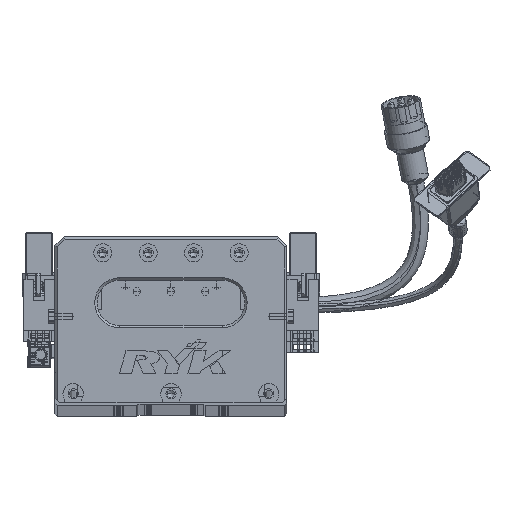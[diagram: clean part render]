
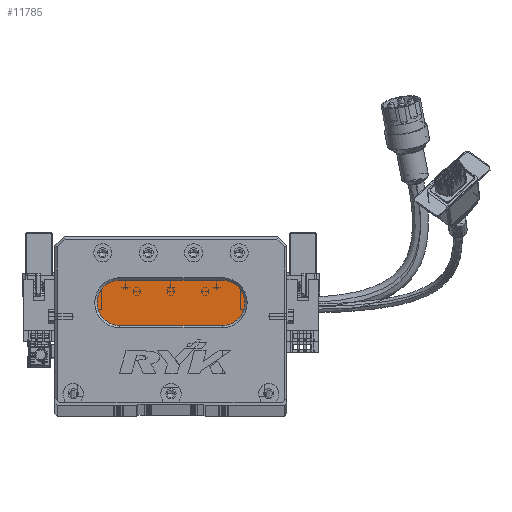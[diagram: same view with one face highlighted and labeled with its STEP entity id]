
A CAD part, top view. The second image highlights one B-rep face of the part: STEP entity #11785.
In plain terms, the highlighted planar face has unit normal (0, 0, 1) as drawn and (0, 0, -1) by its records, which use the part's own axes.
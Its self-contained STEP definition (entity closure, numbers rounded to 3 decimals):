
#1472 = DIRECTION ( 'NONE',  ( -1., 0., 0. ) ) ;
#5469 = DIRECTION ( 'NONE',  ( -1., 0., 0. ) ) ;
#6816 = AXIS2_PLACEMENT_3D ( 'NONE', #46559, #53493, #12463 ) ;
#9738 = DIRECTION ( 'NONE',  ( 1., 0., 0. ) ) ;
#9796 = CARTESIAN_POINT ( 'NONE',  ( 73.5, 44., 13. ) ) ;
#10981 = CIRCLE ( 'NONE', #51789, 10. ) ;
#11600 = CARTESIAN_POINT ( 'NONE',  ( 28.5, 34., 13. ) ) ;
#11785 = ADVANCED_FACE ( 'NONE', ( #70540 ), #29599, .T. ) ;
#12463 = DIRECTION ( 'NONE',  ( -1., 0., 0. ) ) ;
#20121 = EDGE_CURVE ( 'NONE', #39447, #71828, #64007, .T. ) ;
#21683 = AXIS2_PLACEMENT_3D ( 'NONE', #56565, #43353, #1472 ) ;
#22077 = ORIENTED_EDGE ( 'NONE', *, *, #20121, .T. ) ;
#23458 = DIRECTION ( 'NONE',  ( -1., 0., 0. ) ) ;
#25227 = VECTOR ( 'NONE', #9738, 1000. ) ;
#25772 = DIRECTION ( 'NONE',  ( 0., 0., -1. ) ) ;
#29599 = PLANE ( 'NONE',  #21683 ) ;
#30168 = AXIS2_PLACEMENT_3D ( 'NONE', #72865, #25772, #5469 ) ;
#31297 = EDGE_CURVE ( 'NONE', #80783, #39447, #71876, .T. ) ;
#34856 = CARTESIAN_POINT ( 'NONE',  ( 28.5, 54., 13. ) ) ;
#36384 = ORIENTED_EDGE ( 'NONE', *, *, #37349, .T. ) ;
#36512 = CIRCLE ( 'NONE', #30168, 10. ) ;
#36963 = CARTESIAN_POINT ( 'NONE',  ( 73.5, 34., 13. ) ) ;
#37349 = EDGE_CURVE ( 'NONE', #71828, #42043, #36512, .T. ) ;
#39447 = VERTEX_POINT ( 'NONE', #11600 ) ;
#42043 = VERTEX_POINT ( 'NONE', #34856 ) ;
#43353 = DIRECTION ( 'NONE',  ( 0., 0., -1. ) ) ;
#46559 = CARTESIAN_POINT ( 'NONE',  ( 28.5, 44., 13. ) ) ;
#50463 = CARTESIAN_POINT ( 'NONE',  ( 73.5, 54., 13. ) ) ;
#50822 = DIRECTION ( 'NONE',  ( 0., 0., -1. ) ) ;
#51789 = AXIS2_PLACEMENT_3D ( 'NONE', #9796, #50822, #77815 ) ;
#53493 = DIRECTION ( 'NONE',  ( 0., 0., -1. ) ) ;
#54122 = CARTESIAN_POINT ( 'NONE',  ( 73.5, 54., 13. ) ) ;
#56565 = CARTESIAN_POINT ( 'NONE',  ( 73.5, 44., 13. ) ) ;
#59620 = CARTESIAN_POINT ( 'NONE',  ( 18.5, 44., 13. ) ) ;
#64007 = CIRCLE ( 'NONE', #6816, 10. ) ;
#64750 = ORIENTED_EDGE ( 'NONE', *, *, #82307, .T. ) ;
#70230 = ORIENTED_EDGE ( 'NONE', *, *, #31297, .T. ) ;
#70540 = FACE_OUTER_BOUND ( 'NONE', #82781, .T. ) ;
#71828 = VERTEX_POINT ( 'NONE', #59620 ) ;
#71876 = LINE ( 'NONE', #36963, #72891 ) ;
#72865 = CARTESIAN_POINT ( 'NONE',  ( 28.5, 44., 13. ) ) ;
#72891 = VECTOR ( 'NONE', #23458, 1000. ) ;
#73508 = LINE ( 'NONE', #50463, #25227 ) ;
#75992 = VERTEX_POINT ( 'NONE', #54122 ) ;
#76786 = ORIENTED_EDGE ( 'NONE', *, *, #79437, .T. ) ;
#77815 = DIRECTION ( 'NONE',  ( -1., 0., 0. ) ) ;
#79437 = EDGE_CURVE ( 'NONE', #75992, #80783, #10981, .T. ) ;
#80783 = VERTEX_POINT ( 'NONE', #86370 ) ;
#82307 = EDGE_CURVE ( 'NONE', #42043, #75992, #73508, .T. ) ;
#82781 = EDGE_LOOP ( 'NONE', ( #76786, #70230, #22077, #36384, #64750 ) ) ;
#86370 = CARTESIAN_POINT ( 'NONE',  ( 73.5, 34., 13. ) ) ;
